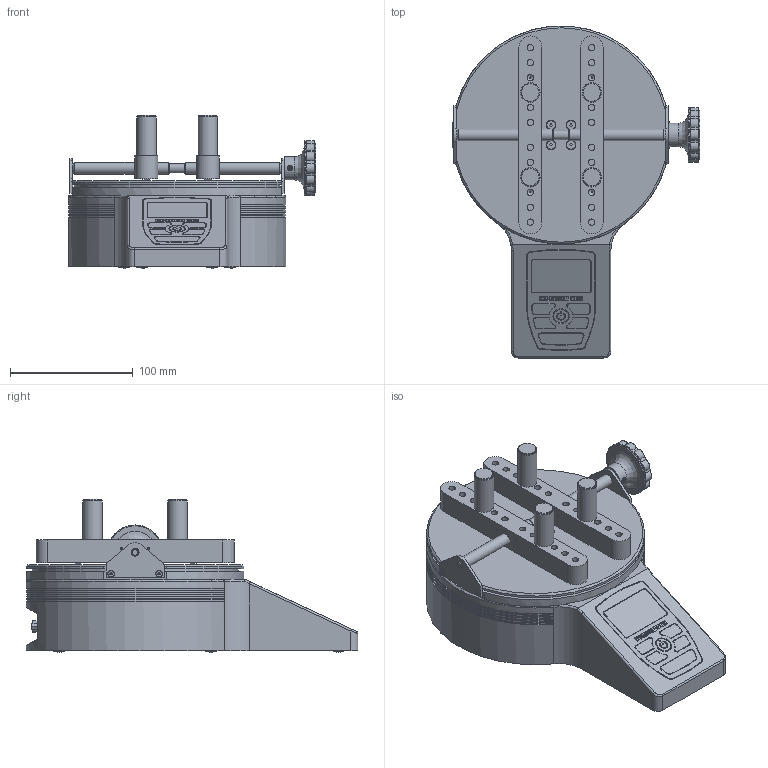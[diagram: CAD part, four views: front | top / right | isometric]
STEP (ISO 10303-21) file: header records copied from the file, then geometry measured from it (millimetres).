
FILE_DESCRIPTION((''),'2;1');
FILE_NAME('F:\CAD files\Itr\3D MARKETING MODELS\TORQUE GAUGES\TT01\TT01.stp','2017-04-05T16:06:41',('mlampen'),(''),'Autodesk Inventor 2010','Autodesk Inventor 2010','');
FILE_SCHEMA(('AUTOMOTIVE_DESIGN { 1 0 10303 214 1 1 1 1 }'));
Length unit declared in the file: inch
Products named in the file (8): Assembly1; Part2; Part4; Part6; Part8; Part10; Part12; Part14
Assembly tree (7 placements, depth 2):
  Assembly1
    Part2
    Part4
    Part6
    Part8
    Part10
    Part12
    Part14
Bounding box: 201.61 x 270.49 x 124.79 mm (x, y, z)
Volume: 2166351.8 mm3; surface area: 178607.6 mm2
Topology: 16 solids, 16 shells, 1173 faces, 2819 edges, 1797 vertices
Faces by surface type: plane 576, cylinder 305, bspline 149, cone 108, torus 25, sphere 10
Full cylindrical faces by diameter (mm): 1.016 x10, 2.068 x4, 2.5 x1, 2.845 x7, 3.175 x2, 3.454 x1, 3.505 x4, 3.551 x6, 3.581 x2, 3.81 x4, 4.166 x6, 4.826 x4, 5.232 x14, 6.223 x4, 6.274 x2, 6.299 x1, 6.35 x5, 6.401 x1, 7.595 x3, 8.636 x10, 9.525 x6, 10.16 x7, 12.065 x1, 13.335 x1, 14.986 x4, 15.875 x4, 19.05 x1, 39.878 x1, 44.45 x1, 167.792 x1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
Entity records: 34737 total; most frequent: CARTESIAN_POINT 8944, DIRECTION 5294, ORIENTED_EDGE 4860, EDGE_CURVE 2430, AXIS2_PLACEMENT_3D 1977, VERTEX_POINT 1667, EDGE_LOOP 1621, VECTOR 1340
